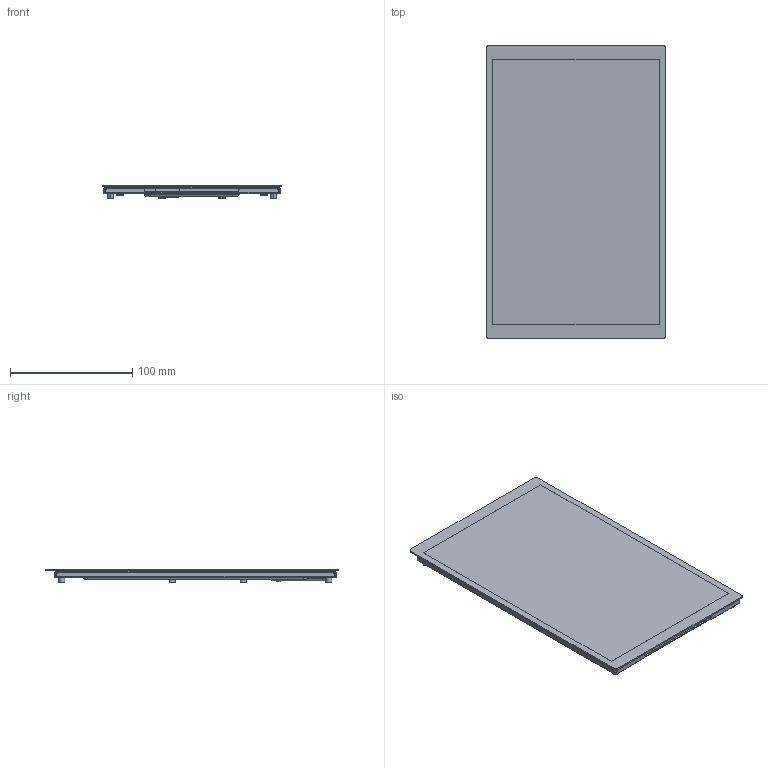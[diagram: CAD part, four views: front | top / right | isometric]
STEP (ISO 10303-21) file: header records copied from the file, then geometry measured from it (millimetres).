
FILE_DESCRIPTION((''),'2;1');
FILE_NAME('10_1-DSI-TOUCH-A','2025-07-02T18:21:44',('xiaojisheng'),(''),'CREO PARAMETRIC BY PTC INC, 2021063','CREO PARAMETRIC BY PTC INC, 2021063','');
FILE_SCHEMA(('CONFIG_CONTROL_DESIGN','SHAPE_APPEARANCE_LAYERS_GROUPS'));
Length unit declared in the file: millimetre
Products named in the file (1): 10_1-DSI-TOUCH-A
Bounding box: 147 x 239 x 10.8 mm (x, y, z)
Volume: 187759.6 mm3; surface area: 263045.7 mm2
Topology: 1 solids, 4 shells, 817 faces, 2297 edges, 1505 vertices
Faces by surface type: plane 660, cylinder 119, torus 32, bspline 4, extrusion 2
Entity records: 32469 total; most frequent: CARTESIAN_POINT 5060, ORIENTED_EDGE 4594, DIRECTION 4186, EDGE_CURVE 2297, VECTOR 2002, LINE 2000, VERTEX_POINT 1505, AXIS2_PLACEMENT_3D 1092
